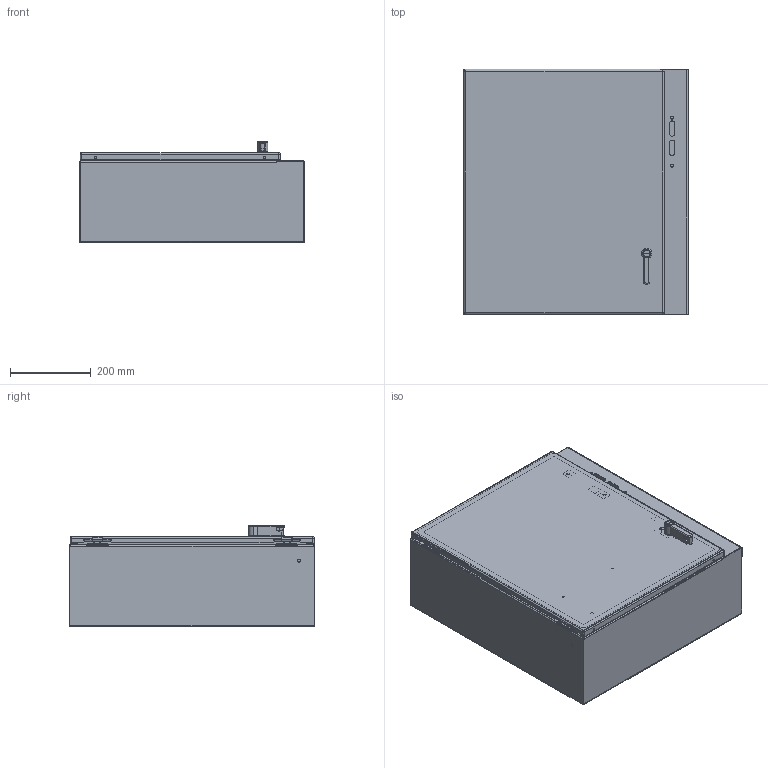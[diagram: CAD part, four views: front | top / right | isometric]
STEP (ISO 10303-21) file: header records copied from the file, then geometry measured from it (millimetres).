
FILE_DESCRIPTION (( 'STEP AP203' ), '1' );
FILE_NAME ('77970.step', '2014-10-10T08:34:47', ( 'admin' ), ( '' ), 'SwSTEP 2.0', 'SolidWorks 2010', '' );
FILE_SCHEMA (( 'CONFIG_CONTROL_DESIGN' ));
Products named in the file (31): 77970; 89082724; 87756318; 23271001_After Weld; 87543027; 89076399; 89076193; 89056623; 87938389_assy; 87938412_fip; 87938369; 99401225; 87931362_87931362; 23101001; 87415910_Locked; 64157001_Locked; 87540678; 64210001; 64208001; 64205001; 87541995; 87541994_Installed Height; 64206003; 64207001; 64103001; 99411834; 64212002; 64144001; 87938430; 87784879_CWHPTO; 79410_LOCKED
Assembly tree (40 placements, depth 5):
  77970
    89082724
      23271001_After Weld  x4
      87756318
      99401225
    89076399  x2
      89076193
      89056623
    87784879_CWHPTO
      79410_LOCKED
    87543027  x2
    87938389_assy
      87415910_Locked
        64206003
        64157001_Locked
          87540678
          64208001
          64205001  x2
          64210001
          87541995
          87541994_Installed Height
        64207001
        64103001  x2
        99411834  x2
        64212002
        64144001
      87938430
      87938412_fip
        87938369
        99401225
        87931362_87931362  x2
        23101001
Bounding box: 557.53 x 609.6 x 251.76 mm (x, y, z)
Volume: 2136502.2 mm3; surface area: 2659738.7 mm2
Topology: 36 solids, 36 shells, 2635 faces, 6810 edges, 4266 vertices
Faces by surface type: plane 1259, cylinder 720, bspline 438, torus 135, cone 51, sphere 32
Entity records: 80001 total; most frequent: CARTESIAN_POINT 30383, ORIENTED_EDGE 10118, DIRECTION 8672, EDGE_CURVE 5059, VERTEX_POINT 3192, LINE 2922, VECTOR 2922, AXIS2_PLACEMENT_3D 2875
